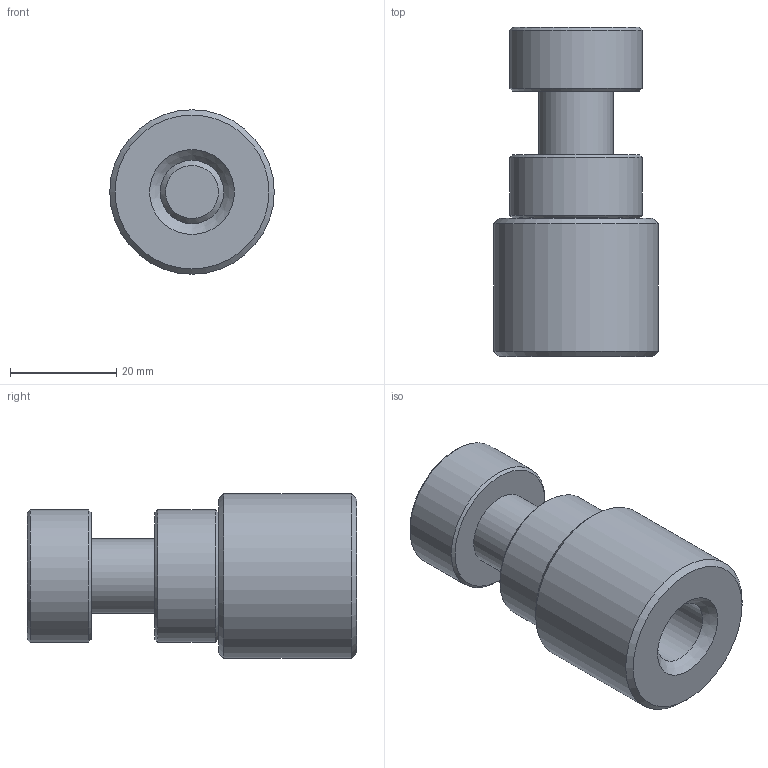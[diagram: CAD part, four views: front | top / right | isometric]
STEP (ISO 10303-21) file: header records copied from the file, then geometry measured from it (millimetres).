
FILE_DESCRIPTION(/* description */ (''),/* implementation_level */ '2;1');
FILE_NAME(/* name */ '',/* time_stamp */ '2025-12-08T10:58:23+03:00',/* author */ ('User'),/* organization */ (''),/* preprocessor_version */ 'ST-DEVELOPER v19.2',/* originating_system */ 'Autodesk Inventor 2024',/* authorisation */ '');
FILE_SCHEMA (('AUTOMOTIVE_DESIGN { 1 0 10303 214 3 1 1 }'));
Length unit declared in the file: millimetre
Products named in the file (3): Домкрат винтовой 
S-300; Основание; Домкрат винтовой 
S-300_1
Assembly tree (2 placements, depth 2):
  Домкрат винтовой 
S-300
    Основание
    Домкрат винтовой 
S-300_1
Bounding box: 31 x 62 x 31 mm (x, y, z)
Volume: 31748.3 mm3; surface area: 9944.6 mm2
Topology: 3 solids, 3 shells, 23 faces, 48 edges, 32 vertices
Faces by surface type: cone 10, plane 7, cylinder 6
Full cylindrical faces by diameter (mm): 12 x2, 14 x1, 25 x2, 31 x1
Entity records: 748 total; most frequent: DIRECTION 136, CARTESIAN_POINT 108, ORIENTED_EDGE 96, AXIS2_PLACEMENT_3D 60, EDGE_CURVE 48, CIRCLE 32, VERTEX_POINT 32, EDGE_LOOP 28
